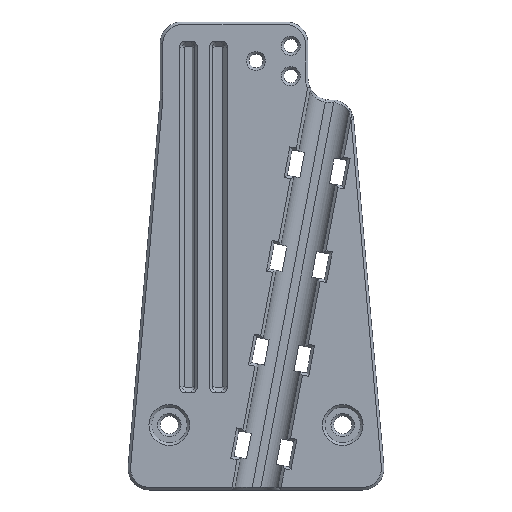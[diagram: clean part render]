
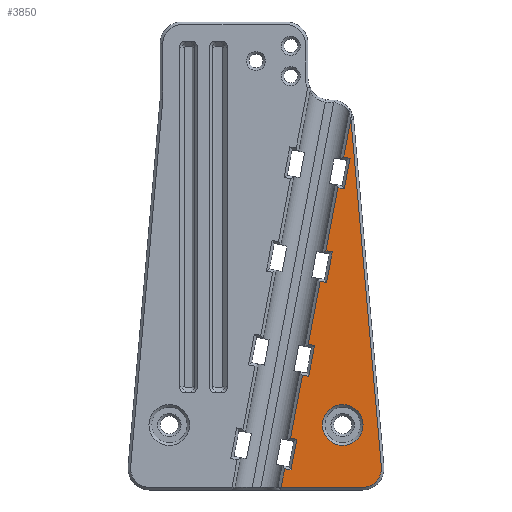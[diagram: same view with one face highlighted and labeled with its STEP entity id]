
A CAD part, front view. The second image highlights one B-rep face of the part: STEP entity #3850.
In plain terms, the highlighted planar face has unit normal (0, -1, 0).
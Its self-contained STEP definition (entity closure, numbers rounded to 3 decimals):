
#69=FACE_BOUND('',#563,.T.);
#136=PLANE('',#4148);
#321=FACE_OUTER_BOUND('',#562,.T.);
#562=EDGE_LOOP('',(#2886,#2887,#2888,#2889,#2890,#2891,#2892,#2893,#2894,
#2895,#2896,#2897,#2898,#2899,#2900,#2901,#2902,#2903,#2904,#2905,#2906));
#563=EDGE_LOOP('',(#2907));
#801=CIRCLE('',#4146,4.7);
#803=CIRCLE('',#4149,4.4);
#804=CIRCLE('',#4150,4.4);
#965=LINE('',#5835,#1390);
#966=LINE('',#5839,#1391);
#967=LINE('',#5843,#1392);
#968=LINE('',#5845,#1393);
#969=LINE('',#5847,#1394);
#970=LINE('',#5849,#1395);
#971=LINE('',#5851,#1396);
#972=LINE('',#5853,#1397);
#973=LINE('',#5855,#1398);
#974=LINE('',#5857,#1399);
#975=LINE('',#5859,#1400);
#976=LINE('',#5861,#1401);
#977=LINE('',#5863,#1402);
#978=LINE('',#5865,#1403);
#979=LINE('',#5867,#1404);
#980=LINE('',#5869,#1405);
#981=LINE('',#5871,#1406);
#982=LINE('',#5873,#1407);
#983=LINE('',#5874,#1408);
#1390=VECTOR('',#4715,10.);
#1391=VECTOR('',#4718,10.);
#1392=VECTOR('',#4721,10.);
#1393=VECTOR('',#4722,10.);
#1394=VECTOR('',#4723,10.);
#1395=VECTOR('',#4724,10.);
#1396=VECTOR('',#4725,10.);
#1397=VECTOR('',#4726,10.);
#1398=VECTOR('',#4727,10.);
#1399=VECTOR('',#4728,10.);
#1400=VECTOR('',#4729,10.);
#1401=VECTOR('',#4730,10.);
#1402=VECTOR('',#4731,10.);
#1403=VECTOR('',#4732,10.);
#1404=VECTOR('',#4733,10.);
#1405=VECTOR('',#4734,10.);
#1406=VECTOR('',#4735,10.);
#1407=VECTOR('',#4736,10.);
#1408=VECTOR('',#4737,10.);
#1811=VERTEX_POINT('',#5827);
#1813=VERTEX_POINT('',#5833);
#1814=VERTEX_POINT('',#5834);
#1815=VERTEX_POINT('',#5836);
#1816=VERTEX_POINT('',#5838);
#1817=VERTEX_POINT('',#5840);
#1818=VERTEX_POINT('',#5842);
#1819=VERTEX_POINT('',#5844);
#1820=VERTEX_POINT('',#5846);
#1821=VERTEX_POINT('',#5848);
#1822=VERTEX_POINT('',#5850);
#1823=VERTEX_POINT('',#5852);
#1824=VERTEX_POINT('',#5854);
#1825=VERTEX_POINT('',#5856);
#1826=VERTEX_POINT('',#5858);
#1827=VERTEX_POINT('',#5860);
#1828=VERTEX_POINT('',#5862);
#1829=VERTEX_POINT('',#5864);
#1830=VERTEX_POINT('',#5866);
#1831=VERTEX_POINT('',#5868);
#1832=VERTEX_POINT('',#5870);
#1833=VERTEX_POINT('',#5872);
#2197=EDGE_CURVE('',#1811,#1811,#801,.T.);
#2200=EDGE_CURVE('',#1813,#1814,#965,.T.);
#2201=EDGE_CURVE('',#1815,#1813,#803,.T.);
#2202=EDGE_CURVE('',#1816,#1815,#966,.T.);
#2203=EDGE_CURVE('',#1817,#1816,#804,.T.);
#2204=EDGE_CURVE('',#1818,#1817,#967,.T.);
#2205=EDGE_CURVE('',#1819,#1818,#968,.T.);
#2206=EDGE_CURVE('',#1820,#1819,#969,.T.);
#2207=EDGE_CURVE('',#1821,#1820,#970,.T.);
#2208=EDGE_CURVE('',#1822,#1821,#971,.T.);
#2209=EDGE_CURVE('',#1823,#1822,#972,.T.);
#2210=EDGE_CURVE('',#1824,#1823,#973,.T.);
#2211=EDGE_CURVE('',#1825,#1824,#974,.T.);
#2212=EDGE_CURVE('',#1826,#1825,#975,.T.);
#2213=EDGE_CURVE('',#1827,#1826,#976,.T.);
#2214=EDGE_CURVE('',#1828,#1827,#977,.T.);
#2215=EDGE_CURVE('',#1829,#1828,#978,.T.);
#2216=EDGE_CURVE('',#1830,#1829,#979,.T.);
#2217=EDGE_CURVE('',#1831,#1830,#980,.T.);
#2218=EDGE_CURVE('',#1832,#1831,#981,.T.);
#2219=EDGE_CURVE('',#1833,#1832,#982,.T.);
#2220=EDGE_CURVE('',#1814,#1833,#983,.T.);
#2886=ORIENTED_EDGE('',*,*,#2200,.F.);
#2887=ORIENTED_EDGE('',*,*,#2201,.F.);
#2888=ORIENTED_EDGE('',*,*,#2202,.F.);
#2889=ORIENTED_EDGE('',*,*,#2203,.F.);
#2890=ORIENTED_EDGE('',*,*,#2204,.F.);
#2891=ORIENTED_EDGE('',*,*,#2205,.F.);
#2892=ORIENTED_EDGE('',*,*,#2206,.F.);
#2893=ORIENTED_EDGE('',*,*,#2207,.F.);
#2894=ORIENTED_EDGE('',*,*,#2208,.F.);
#2895=ORIENTED_EDGE('',*,*,#2209,.F.);
#2896=ORIENTED_EDGE('',*,*,#2210,.F.);
#2897=ORIENTED_EDGE('',*,*,#2211,.F.);
#2898=ORIENTED_EDGE('',*,*,#2212,.F.);
#2899=ORIENTED_EDGE('',*,*,#2213,.F.);
#2900=ORIENTED_EDGE('',*,*,#2214,.F.);
#2901=ORIENTED_EDGE('',*,*,#2215,.F.);
#2902=ORIENTED_EDGE('',*,*,#2216,.F.);
#2903=ORIENTED_EDGE('',*,*,#2217,.F.);
#2904=ORIENTED_EDGE('',*,*,#2218,.F.);
#2905=ORIENTED_EDGE('',*,*,#2219,.F.);
#2906=ORIENTED_EDGE('',*,*,#2220,.F.);
#2907=ORIENTED_EDGE('',*,*,#2197,.F.);
#3850=ADVANCED_FACE('',(#321,#69),#136,.T.);
#4146=AXIS2_PLACEMENT_3D('',#5828,#4708,#4709);
#4148=AXIS2_PLACEMENT_3D('',#5832,#4713,#4714);
#4149=AXIS2_PLACEMENT_3D('',#5837,#4716,#4717);
#4150=AXIS2_PLACEMENT_3D('',#5841,#4719,#4720);
#4708=DIRECTION('center_axis',(0.,-1.,0.));
#4709=DIRECTION('ref_axis',(1.,0.,0.));
#4713=DIRECTION('center_axis',(0.,-1.,0.));
#4714=DIRECTION('ref_axis',(1.,0.,0.));
#4715=DIRECTION('',(-1.,0.,0.));
#4716=DIRECTION('center_axis',(0.,1.,0.));
#4717=DIRECTION('ref_axis',(0.737,0.,-0.676));
#4718=DIRECTION('',(0.087,0.,-0.996));
#4719=DIRECTION('center_axis',(0.,1.,0.));
#4720=DIRECTION('ref_axis',(0.676,0.,0.737));
#4721=DIRECTION('',(0.186,0.,0.982));
#4722=DIRECTION('',(-0.982,0.,0.186));
#4723=DIRECTION('',(0.186,0.,0.982));
#4724=DIRECTION('',(0.982,0.,-0.186));
#4725=DIRECTION('',(0.186,0.,0.982));
#4726=DIRECTION('',(-0.982,0.,0.186));
#4727=DIRECTION('',(0.186,0.,0.982));
#4728=DIRECTION('',(0.982,0.,-0.186));
#4729=DIRECTION('',(0.186,0.,0.982));
#4730=DIRECTION('',(-0.982,0.,0.186));
#4731=DIRECTION('',(0.186,0.,0.982));
#4732=DIRECTION('',(0.982,0.,-0.186));
#4733=DIRECTION('',(0.186,0.,0.982));
#4734=DIRECTION('',(-0.982,0.,0.186));
#4735=DIRECTION('',(0.186,0.,0.982));
#4736=DIRECTION('',(0.982,0.,-0.186));
#4737=DIRECTION('',(0.186,0.,0.982));
#5827=CARTESIAN_POINT('',(114.524,-210.,297.319));
#5828=CARTESIAN_POINT('Origin',(119.224,-210.,297.319));
#5832=CARTESIAN_POINT('Origin',(99.224,-210.,336.319));
#5833=CARTESIAN_POINT('',(123.767,-210.,282.919));
#5834=CARTESIAN_POINT('',(105.011,-210.,282.919));
#5835=CARTESIAN_POINT('',(84.224,-210.,282.919));
#5836=CARTESIAN_POINT('',(128.151,-210.,287.702));
#5837=CARTESIAN_POINT('Origin',(123.767,-210.,287.319));
#5838=CARTESIAN_POINT('',(121.151,-210.,367.702));
#5839=CARTESIAN_POINT('',(126.168,-210.,310.363));
#5840=CARTESIAN_POINT('',(121.127,-210.,367.921));
#5841=CARTESIAN_POINT('Origin',(116.768,-210.,367.319));
#5842=CARTESIAN_POINT('',(119.465,-210.,359.153));
#5843=CARTESIAN_POINT('',(117.586,-210.,349.243));
#5844=CARTESIAN_POINT('',(120.938,-210.,358.874));
#5845=CARTESIAN_POINT('',(110.753,-210.,360.805));
#5846=CARTESIAN_POINT('',(119.597,-210.,351.8));
#5847=CARTESIAN_POINT('',(118.442,-210.,345.706));
#5848=CARTESIAN_POINT('',(118.123,-210.,352.079));
#5849=CARTESIAN_POINT('',(110.886,-210.,353.451));
#5850=CARTESIAN_POINT('',(115.367,-210.,337.538));
#5851=CARTESIAN_POINT('',(117.586,-210.,349.243));
#5852=CARTESIAN_POINT('',(116.84,-210.,337.259));
#5853=CARTESIAN_POINT('',(106.655,-210.,339.19));
#5854=CARTESIAN_POINT('',(115.499,-210.,330.185));
#5855=CARTESIAN_POINT('',(116.393,-210.,334.898));
#5856=CARTESIAN_POINT('',(114.025,-210.,330.464));
#5857=CARTESIAN_POINT('',(106.788,-210.,331.836));
#5858=CARTESIAN_POINT('',(111.269,-210.,315.923));
#5859=CARTESIAN_POINT('',(117.586,-210.,349.243));
#5860=CARTESIAN_POINT('',(112.742,-210.,315.644));
#5861=CARTESIAN_POINT('',(102.557,-210.,317.575));
#5862=CARTESIAN_POINT('',(111.401,-210.,308.57));
#5863=CARTESIAN_POINT('',(114.344,-210.,324.091));
#5864=CARTESIAN_POINT('',(109.927,-210.,308.849));
#5865=CARTESIAN_POINT('',(102.69,-210.,310.221));
#5866=CARTESIAN_POINT('',(107.171,-210.,294.308));
#5867=CARTESIAN_POINT('',(117.586,-210.,349.243));
#5868=CARTESIAN_POINT('',(108.644,-210.,294.029));
#5869=CARTESIAN_POINT('',(98.459,-210.,295.96));
#5870=CARTESIAN_POINT('',(107.303,-210.,286.955));
#5871=CARTESIAN_POINT('',(112.295,-210.,313.283));
#5872=CARTESIAN_POINT('',(105.829,-210.,287.234));
#5873=CARTESIAN_POINT('',(98.592,-210.,288.606));
#5874=CARTESIAN_POINT('',(117.586,-210.,349.243));
